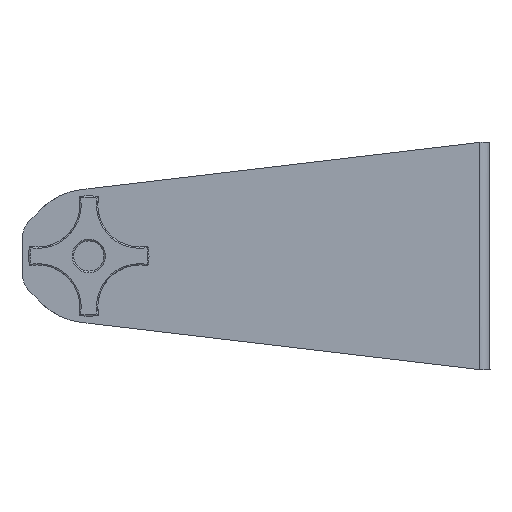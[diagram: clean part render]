
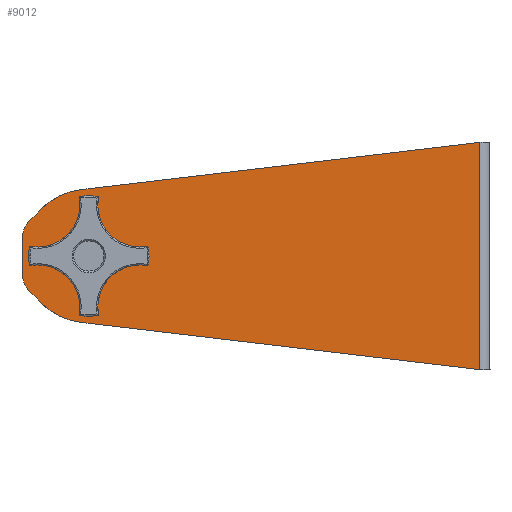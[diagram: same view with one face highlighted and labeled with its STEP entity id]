
A CAD part, left-side view. The second image highlights one B-rep face of the part: STEP entity #9012.
In plain terms, the highlighted planar face has unit normal (-1, 0, 0).
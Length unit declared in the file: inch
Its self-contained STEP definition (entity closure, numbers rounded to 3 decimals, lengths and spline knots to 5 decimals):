
#15 = EDGE_CURVE ( 'NONE', #10558, #6067, #3244, .T. ) ;
#39 = CARTESIAN_POINT ( 'NONE',  ( -12.1875, 8.38521, -0.88255 ) ) ;
#161 = ORIENTED_EDGE ( 'NONE', *, *, #5262, .F. ) ;
#196 = CARTESIAN_POINT ( 'NONE',  ( -12.1875, 7.3045, 0. ) ) ;
#271 = CARTESIAN_POINT ( 'NONE',  ( -12.1875, 0.188, -2.125 ) ) ;
#319 = DIRECTION ( 'NONE',  ( 0., 0.993, 0.118 ) ) ;
#637 = DIRECTION ( 'NONE',  ( 1., 0., 0. ) ) ;
#716 = EDGE_LOOP ( 'NONE', ( #7386, #7356, #10090, #5532, #161, #9236, #8037, #3836, #995, #6653 ) ) ;
#752 = DIRECTION ( 'NONE',  ( 0., -1., 0. ) ) ;
#808 = PLANE ( 'NONE',  #4247 ) ;
#818 = CARTESIAN_POINT ( 'NONE',  ( -12.1875, 0.196, 0. ) ) ;
#870 = AXIS2_PLACEMENT_3D ( 'NONE', #2177, #6378, #1410 ) ;
#919 = FACE_OUTER_BOUND ( 'NONE', #716, .T. ) ;
#959 = DIRECTION ( 'NONE',  ( 0., 0., 1. ) ) ;
#974 = EDGE_CURVE ( 'NONE', #6552, #5570, #10321, .T. ) ;
#978 = CARTESIAN_POINT ( 'NONE',  ( -12.1875, 7.6955, 0. ) ) ;
#995 = ORIENTED_EDGE ( 'NONE', *, *, #4211, .F. ) ;
#1198 = AXIS2_PLACEMENT_3D ( 'NONE', #8115, #7401, #752 ) ;
#1342 = AXIS2_PLACEMENT_3D ( 'NONE', #2283, #9066, #1398 ) ;
#1349 = AXIS2_PLACEMENT_3D ( 'NONE', #7001, #8901, #4580 ) ;
#1398 = DIRECTION ( 'NONE',  ( 0., -1., 0. ) ) ;
#1410 = DIRECTION ( 'NONE',  ( 0., -1., 0. ) ) ;
#1607 = LINE ( 'NONE', #818, #9171 ) ;
#1877 = CIRCLE ( 'NONE', #4908, 0.1955 ) ;
#2120 = VECTOR ( 'NONE', #10718, 39.37008 ) ;
#2177 = CARTESIAN_POINT ( 'NONE',  ( -12.1875, 7.5, 0. ) ) ;
#2283 = CARTESIAN_POINT ( 'NONE',  ( -12.1875, 8.25, -0.31 ) ) ;
#2341 = CARTESIAN_POINT ( 'NONE',  ( -12.1875, 7.5, 0. ) ) ;
#2654 = ORIENTED_EDGE ( 'NONE', *, *, #974, .T. ) ;
#2782 = CARTESIAN_POINT ( 'NONE',  ( -12.1875, 7.64706, 1.24132 ) ) ;
#2937 = CARTESIAN_POINT ( 'NONE',  ( -12.1875, 8.60408, -0.66302 ) ) ;
#2970 = DIRECTION ( 'NONE',  ( 0., -1., 0. ) ) ;
#3049 = LINE ( 'NONE', #8318, #2120 ) ;
#3084 = CARTESIAN_POINT ( 'NONE',  ( -12.1875, 8.75, 0.31 ) ) ;
#3098 = EDGE_CURVE ( 'NONE', #10974, #6067, #1607, .T. ) ;
#3155 = VERTEX_POINT ( 'NONE', #4950 ) ;
#3236 = EDGE_LOOP ( 'NONE', ( #2654, #5437 ) ) ;
#3244 = LINE ( 'NONE', #6659, #5379 ) ;
#3481 = DIRECTION ( 'NONE',  ( -1., 0., 0. ) ) ;
#3587 = VERTEX_POINT ( 'NONE', #8796 ) ;
#3832 = VERTEX_POINT ( 'NONE', #10357 ) ;
#3836 = ORIENTED_EDGE ( 'NONE', *, *, #5712, .F. ) ;
#4076 = DIRECTION ( 'NONE',  ( 0., -0.993, 0.118 ) ) ;
#4125 = DIRECTION ( 'NONE',  ( 0., -1., 0. ) ) ;
#4211 = EDGE_CURVE ( 'NONE', #4344, #9742, #3049, .T. ) ;
#4247 = AXIS2_PLACEMENT_3D ( 'NONE', #7745, #3481, #6890 ) ;
#4344 = VERTEX_POINT ( 'NONE', #39 ) ;
#4363 = LINE ( 'NONE', #9732, #8189 ) ;
#4580 = DIRECTION ( 'NONE',  ( 0., -1., 0. ) ) ;
#4908 = AXIS2_PLACEMENT_3D ( 'NONE', #2341, #9389, #4125 ) ;
#4950 = CARTESIAN_POINT ( 'NONE',  ( -12.1875, 7.64706, -1.24132 ) ) ;
#4992 = AXIS2_PLACEMENT_3D ( 'NONE', #9912, #637, #2970 ) ;
#5262 = EDGE_CURVE ( 'NONE', #3587, #6935, #7016, .T. ) ;
#5379 = VECTOR ( 'NONE', #4076, 39.37008 ) ;
#5387 = DIRECTION ( 'NONE',  ( 0., -0.706, 0.708 ) ) ;
#5437 = ORIENTED_EDGE ( 'NONE', *, *, #6790, .T. ) ;
#5514 = CIRCLE ( 'NONE', #4992, 0.5 ) ;
#5532 = ORIENTED_EDGE ( 'NONE', *, *, #7250, .F. ) ;
#5570 = VERTEX_POINT ( 'NONE', #196 ) ;
#5712 = EDGE_CURVE ( 'NONE', #9742, #3832, #8119, .T. ) ;
#5894 = VECTOR ( 'NONE', #319, 39.37008 ) ;
#6067 = VERTEX_POINT ( 'NONE', #10829 ) ;
#6169 = CIRCLE ( 'NONE', #1349, 1.25 ) ;
#6378 = DIRECTION ( 'NONE',  ( 1., 0., 0. ) ) ;
#6552 = VERTEX_POINT ( 'NONE', #978 ) ;
#6653 = ORIENTED_EDGE ( 'NONE', *, *, #9189, .F. ) ;
#6659 = CARTESIAN_POINT ( 'NONE',  ( -12.1875, 0.188, 2.125 ) ) ;
#6790 = EDGE_CURVE ( 'NONE', #5570, #6552, #1877, .T. ) ;
#6890 = DIRECTION ( 'NONE',  ( 0., 1., 0. ) ) ;
#6935 = VERTEX_POINT ( 'NONE', #7775 ) ;
#7001 = CARTESIAN_POINT ( 'NONE',  ( -12.1875, 7.5, 0. ) ) ;
#7016 = LINE ( 'NONE', #7921, #9975 ) ;
#7241 = LINE ( 'NONE', #271, #5894 ) ;
#7250 = EDGE_CURVE ( 'NONE', #6935, #10558, #6169, .T. ) ;
#7356 = ORIENTED_EDGE ( 'NONE', *, *, #3098, .T. ) ;
#7386 = ORIENTED_EDGE ( 'NONE', *, *, #10553, .F. ) ;
#7401 = DIRECTION ( 'NONE',  ( 1., 0., 0. ) ) ;
#7745 = CARTESIAN_POINT ( 'NONE',  ( -12.1875, 7.5, 0. ) ) ;
#7775 = CARTESIAN_POINT ( 'NONE',  ( -12.1875, 8.38521, 0.88255 ) ) ;
#7921 = CARTESIAN_POINT ( 'NONE',  ( -12.1875, 8.60408, 0.66302 ) ) ;
#8037 = ORIENTED_EDGE ( 'NONE', *, *, #9370, .F. ) ;
#8115 = CARTESIAN_POINT ( 'NONE',  ( -12.1875, 7.5, 0. ) ) ;
#8119 = CIRCLE ( 'NONE', #1342, 0.5 ) ;
#8189 = VECTOR ( 'NONE', #959, 39.37008 ) ;
#8318 = CARTESIAN_POINT ( 'NONE',  ( -12.1875, 8.60408, -0.66302 ) ) ;
#8729 = CIRCLE ( 'NONE', #870, 1.25 ) ;
#8796 = CARTESIAN_POINT ( 'NONE',  ( -12.1875, 8.60408, 0.66302 ) ) ;
#8901 = DIRECTION ( 'NONE',  ( 1., 0., 0. ) ) ;
#9012 = ADVANCED_FACE ( 'NONE', ( #9260, #919 ), #808, .T. ) ;
#9066 = DIRECTION ( 'NONE',  ( 1., 0., 0. ) ) ;
#9082 = CARTESIAN_POINT ( 'NONE',  ( -12.1875, 0.196, -2.12405 ) ) ;
#9171 = VECTOR ( 'NONE', #10987, 39.37008 ) ;
#9189 = EDGE_CURVE ( 'NONE', #3155, #4344, #8729, .T. ) ;
#9236 = ORIENTED_EDGE ( 'NONE', *, *, #9968, .F. ) ;
#9260 = FACE_BOUND ( 'NONE', #3236, .T. ) ;
#9370 = EDGE_CURVE ( 'NONE', #3832, #9963, #4363, .T. ) ;
#9389 = DIRECTION ( 'NONE',  ( 1., 0., 0. ) ) ;
#9732 = CARTESIAN_POINT ( 'NONE',  ( -12.1875, 8.75, 0.31 ) ) ;
#9742 = VERTEX_POINT ( 'NONE', #2937 ) ;
#9912 = CARTESIAN_POINT ( 'NONE',  ( -12.1875, 8.25, 0.31 ) ) ;
#9963 = VERTEX_POINT ( 'NONE', #3084 ) ;
#9968 = EDGE_CURVE ( 'NONE', #9963, #3587, #5514, .T. ) ;
#9975 = VECTOR ( 'NONE', #5387, 39.37008 ) ;
#10090 = ORIENTED_EDGE ( 'NONE', *, *, #15, .F. ) ;
#10321 = CIRCLE ( 'NONE', #1198, 0.1955 ) ;
#10357 = CARTESIAN_POINT ( 'NONE',  ( -12.1875, 8.75, -0.31 ) ) ;
#10553 = EDGE_CURVE ( 'NONE', #10974, #3155, #7241, .T. ) ;
#10558 = VERTEX_POINT ( 'NONE', #2782 ) ;
#10718 = DIRECTION ( 'NONE',  ( 0., 0.706, 0.708 ) ) ;
#10829 = CARTESIAN_POINT ( 'NONE',  ( -12.1875, 0.196, 2.12405 ) ) ;
#10974 = VERTEX_POINT ( 'NONE', #9082 ) ;
#10987 = DIRECTION ( 'NONE',  ( 0., 0., 1. ) ) ;
